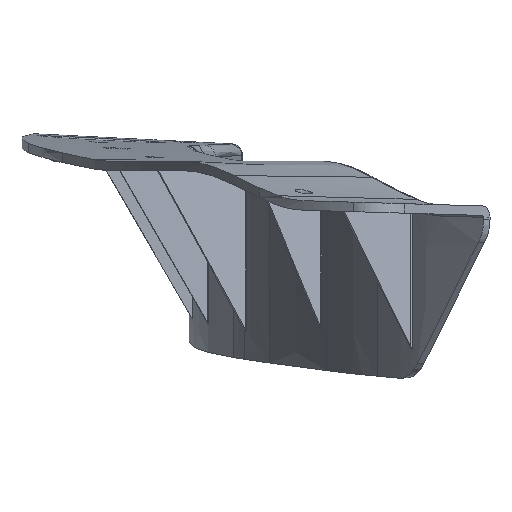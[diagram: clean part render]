
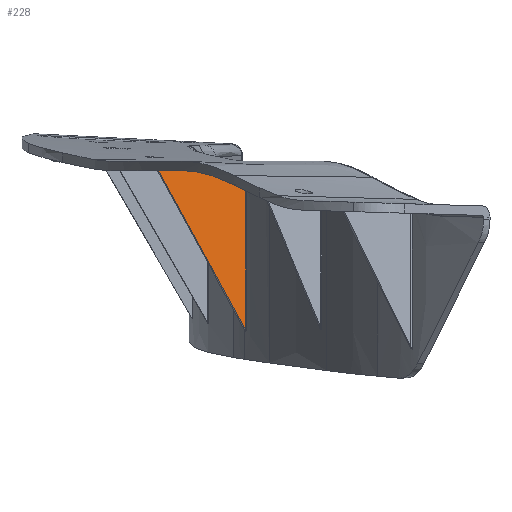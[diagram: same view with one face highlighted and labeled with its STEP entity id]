
A CAD part, front view. The second image highlights one B-rep face of the part: STEP entity #228.
In plain terms, the highlighted planar face has unit normal (0.347, -0.938, 0).
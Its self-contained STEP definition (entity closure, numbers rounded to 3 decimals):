
#228=ADVANCED_FACE('',(#398),#359,.T.);
#359=PLANE('',#2647);
#398=FACE_OUTER_BOUND('',#546,.T.);
#546=EDGE_LOOP('',(#981,#982,#983,#984,#985,#986,#987));
#692=LINE('',#4953,#750);
#750=VECTOR('',#2724,1.);
#981=ORIENTED_EDGE('',*,*,#1992,.F.);
#982=ORIENTED_EDGE('',*,*,#1993,.F.);
#983=ORIENTED_EDGE('',*,*,#1948,.F.);
#984=ORIENTED_EDGE('',*,*,#1994,.F.);
#985=ORIENTED_EDGE('',*,*,#1995,.F.);
#986=ORIENTED_EDGE('',*,*,#1996,.T.);
#987=ORIENTED_EDGE('',*,*,#1997,.F.);
#1685=VERTEX_POINT('',#3777);
#1686=VERTEX_POINT('',#3782);
#1715=VERTEX_POINT('',#4907);
#1716=VERTEX_POINT('',#4908);
#1717=VERTEX_POINT('',#4933);
#1718=VERTEX_POINT('',#4952);
#1719=VERTEX_POINT('',#4954);
#1948=EDGE_CURVE('',#1685,#1686,#2343,.T.);
#1992=EDGE_CURVE('',#1715,#1716,#2379,.T.);
#1993=EDGE_CURVE('',#1686,#1715,#2380,.T.);
#1994=EDGE_CURVE('',#1717,#1685,#2381,.T.);
#1995=EDGE_CURVE('',#1718,#1717,#2382,.T.);
#1996=EDGE_CURVE('',#1718,#1719,#692,.T.);
#1997=EDGE_CURVE('',#1716,#1719,#2383,.T.);
#2343=B_SPLINE_CURVE_WITH_KNOTS('',3,(#3778,#3779,#3780,#3781),
 .UNSPECIFIED.,.F.,.F.,(4,4),(0.,1.),.UNSPECIFIED.);
#2379=B_SPLINE_CURVE_WITH_KNOTS('',1,(#4905,#4906),.UNSPECIFIED.,.F.,.F.,
(2,2),(0.,1.),.UNSPECIFIED.);
#2380=B_SPLINE_CURVE_WITH_KNOTS('',3,(#4909,#4910,#4911,#4912,#4913,#4914,
#4915,#4916,#4917,#4918,#4919,#4920,#4921,#4922,#4923,#4924,#4925,#4926,
#4927,#4928),.UNSPECIFIED.,.F.,.F.,(4,2,2,2,2,2,2,2,2,4),(0.,0.016,
0.031,0.063,0.125,0.25,
0.375,0.438,0.5,1.),.UNSPECIFIED.);
#2381=B_SPLINE_CURVE_WITH_KNOTS('',3,(#4929,#4930,#4931,#4932),
 .UNSPECIFIED.,.F.,.F.,(4,4),(0.,1.),.UNSPECIFIED.);
#2382=B_SPLINE_CURVE_WITH_KNOTS('',5,(#4934,#4935,#4936,#4937,#4938,#4939,
#4940,#4941,#4942,#4943,#4944,#4945,#4946,#4947,#4948,#4949,#4950,#4951),
 .UNSPECIFIED.,.F.,.F.,(6,3,3,3,3,6),(0.,0.037,0.125,
0.25,0.5,1.),.UNSPECIFIED.);
#2383=B_SPLINE_CURVE_WITH_KNOTS('',3,(#4955,#4956,#4957,#4958,#4959,#4960),
 .UNSPECIFIED.,.F.,.F.,(4,2,4),(0.,0.5,1.),.UNSPECIFIED.);
#2647=AXIS2_PLACEMENT_3D('',#4961,#2725,#2726);
#2724=DIRECTION('',(0.,0.,1.));
#2725=DIRECTION('',(0.347,-0.938,0.));
#2726=DIRECTION('',(0.937,0.346,-0.052));
#3777=CARTESIAN_POINT('',(1277.203,628.287,307.63));
#3778=CARTESIAN_POINT('',(1277.203,628.287,307.63));
#3779=CARTESIAN_POINT('',(1277.604,628.436,307.62));
#3780=CARTESIAN_POINT('',(1278.005,628.584,307.61));
#3781=CARTESIAN_POINT('',(1278.406,628.732,307.6));
#3782=CARTESIAN_POINT('',(1278.406,628.732,307.6));
#4905=CARTESIAN_POINT('',(1299.37,636.483,307.323));
#4906=CARTESIAN_POINT('',(1299.653,636.588,307.323));
#4907=CARTESIAN_POINT('',(1299.37,636.483,307.323));
#4908=CARTESIAN_POINT('',(1299.653,636.588,307.323));
#4909=CARTESIAN_POINT('',(1278.406,628.732,307.6));
#4910=CARTESIAN_POINT('',(1278.407,628.733,307.6));
#4911=CARTESIAN_POINT('',(1278.517,628.773,307.598));
#4912=CARTESIAN_POINT('',(1278.958,628.936,307.587));
#4913=CARTESIAN_POINT('',(1279.037,628.965,307.585));
#4914=CARTESIAN_POINT('',(1279.411,629.104,307.576));
#4915=CARTESIAN_POINT('',(1279.664,629.197,307.57));
#4916=CARTESIAN_POINT('',(1280.402,629.47,307.553));
#4917=CARTESIAN_POINT('',(1280.904,629.656,307.542));
#4918=CARTESIAN_POINT('',(1282.339,630.186,307.511));
#4919=CARTESIAN_POINT('',(1283.332,630.553,307.49));
#4920=CARTESIAN_POINT('',(1285.144,631.223,307.456));
#4921=CARTESIAN_POINT('',(1286.046,631.557,307.44));
#4922=CARTESIAN_POINT('',(1287.393,632.055,307.419));
#4923=CARTESIAN_POINT('',(1287.842,632.221,307.412));
#4924=CARTESIAN_POINT('',(1288.736,632.552,307.399));
#4925=CARTESIAN_POINT('',(1289.218,632.73,307.393));
#4926=CARTESIAN_POINT('',(1292.911,634.096,307.345));
#4927=CARTESIAN_POINT('',(1296.157,635.295,307.322));
#4928=CARTESIAN_POINT('',(1299.37,636.483,307.323));
#4929=CARTESIAN_POINT('',(1276.863,628.162,307.638));
#4930=CARTESIAN_POINT('',(1276.976,628.203,307.636));
#4931=CARTESIAN_POINT('',(1277.09,628.245,307.633));
#4932=CARTESIAN_POINT('',(1277.203,628.287,307.63));
#4933=CARTESIAN_POINT('',(1276.863,628.162,307.638));
#4934=CARTESIAN_POINT('',(1300.123,636.762,265.063));
#4935=CARTESIAN_POINT('',(1299.953,636.699,265.375));
#4936=CARTESIAN_POINT('',(1299.782,636.636,265.687));
#4937=CARTESIAN_POINT('',(1299.223,636.429,266.711));
#4938=CARTESIAN_POINT('',(1298.651,636.218,267.757));
#4939=CARTESIAN_POINT('',(1298.079,636.006,268.804));
#4940=CARTESIAN_POINT('',(1297.678,635.858,269.538));
#4941=CARTESIAN_POINT('',(1296.705,635.498,271.319));
#4942=CARTESIAN_POINT('',(1295.731,635.138,273.101));
#4943=CARTESIAN_POINT('',(1295.16,634.927,274.147));
#4944=CARTESIAN_POINT('',(1293.444,634.293,277.287));
#4945=CARTESIAN_POINT('',(1291.729,633.658,280.427));
#4946=CARTESIAN_POINT('',(1290.585,633.235,282.52));
#4947=CARTESIAN_POINT('',(1287.155,631.967,288.799));
#4948=CARTESIAN_POINT('',(1283.724,630.698,295.079));
#4949=CARTESIAN_POINT('',(1281.437,629.853,299.265));
#4950=CARTESIAN_POINT('',(1279.15,629.007,303.452));
#4951=CARTESIAN_POINT('',(1276.863,628.162,307.638));
#4952=CARTESIAN_POINT('',(1300.123,636.762,265.063));
#4953=CARTESIAN_POINT('',(1300.123,636.762,291.323));
#4954=CARTESIAN_POINT('',(1300.123,636.762,306.823));
#4955=CARTESIAN_POINT('',(1299.653,636.588,307.323));
#4956=CARTESIAN_POINT('',(1299.816,636.648,307.323));
#4957=CARTESIAN_POINT('',(1299.893,636.677,307.274));
#4958=CARTESIAN_POINT('',(1300.077,636.745,307.079));
#4959=CARTESIAN_POINT('',(1300.123,636.762,306.946));
#4960=CARTESIAN_POINT('',(1300.123,636.762,306.823));
#4961=CARTESIAN_POINT('',(1252.059,618.99,309.523));
